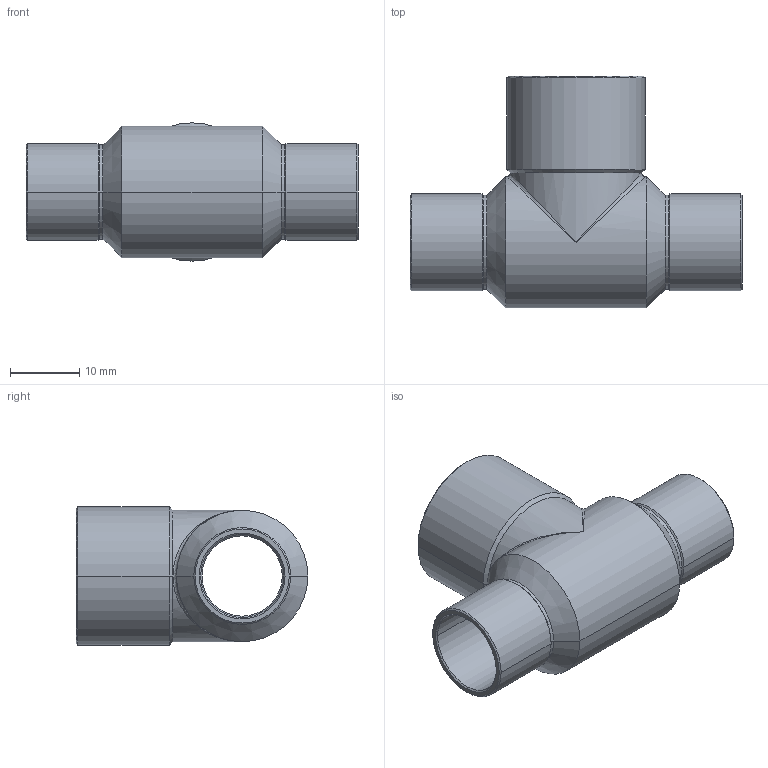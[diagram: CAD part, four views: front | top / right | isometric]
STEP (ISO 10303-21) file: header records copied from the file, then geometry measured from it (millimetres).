
FILE_DESCRIPTION((''),'2;1');
FILE_NAME('P:\Bouwmaten\z-maattekeningen 3D\5000\5130\5130121812.stp','2005-10-26T11:52:32',('Kris'),(''),'Autodesk Inventor 8','Autodesk Inventor 8','');
FILE_SCHEMA(('AUTOMOTIVE_DESIGN { 1 0 10303 214 1 1 1 1 }'));
Length unit declared in the file: millimetre
Products named in the file (1): 5130121812
Bounding box: 48 x 33.5 x 20 mm (x, y, z)
Volume: 3147.8 mm3; surface area: 6468.3 mm2
Topology: 1 solids, 1 shells, 71 faces, 158 edges, 80 vertices
Faces by surface type: cone 28, cylinder 24, bspline 16, plane 3
Entity records: 2435 total; most frequent: CARTESIAN_POINT 902, DIRECTION 346, ORIENTED_EDGE 300, EDGE_CURVE 150, AXIS2_PLACEMENT_3D 144, VERTEX_POINT 80, EDGE_LOOP 74, FACE_OUTER_BOUND 71
